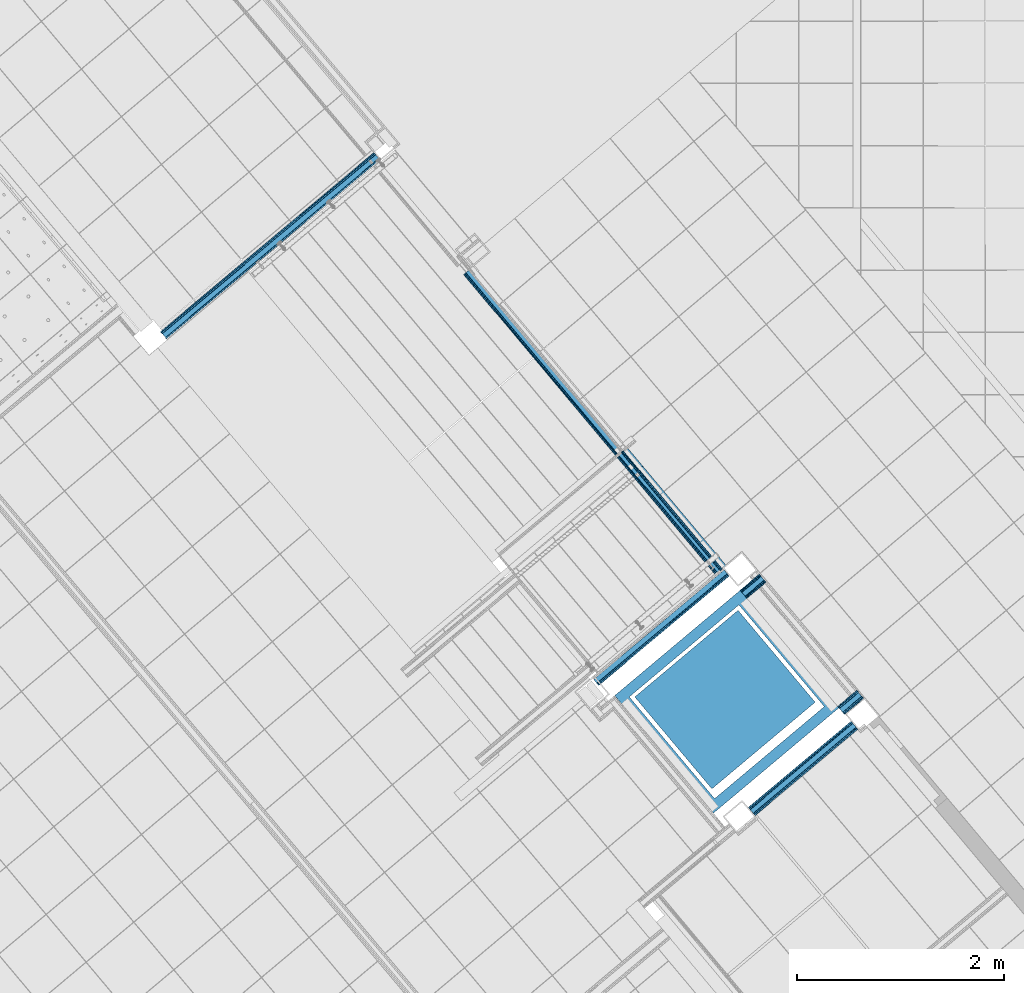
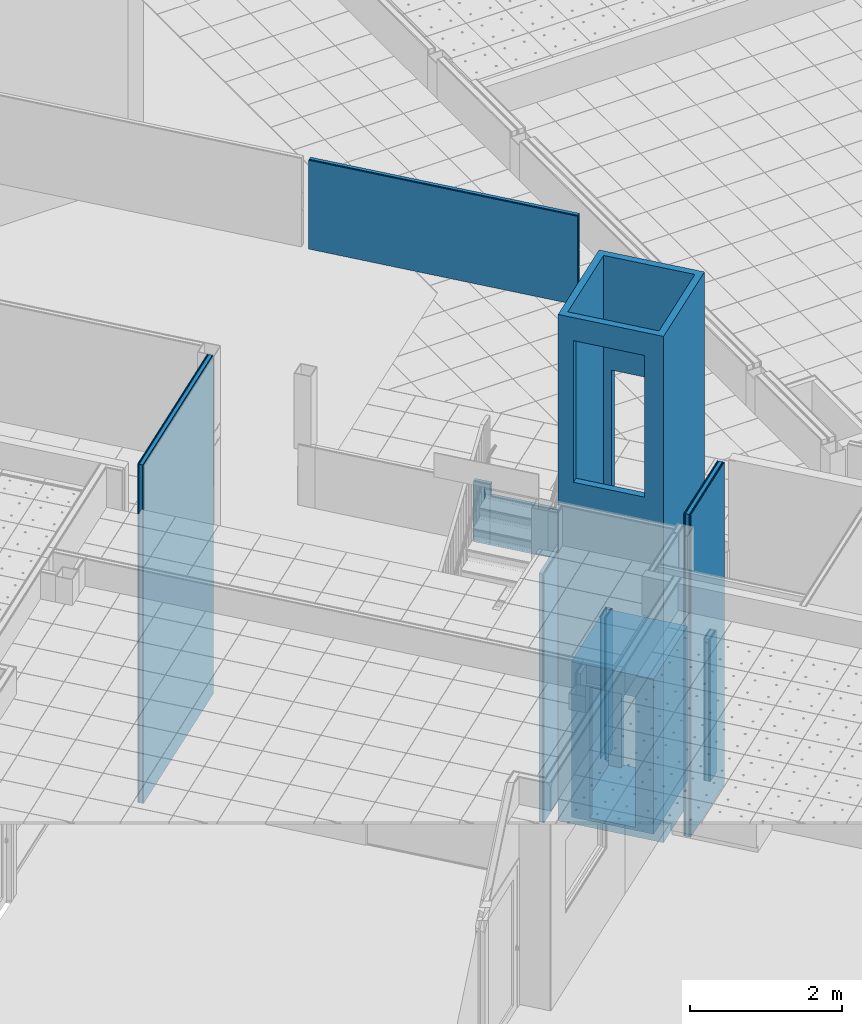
# One storey, part 70 of 338: 33 building element parts, 9 elements without a shape of their own.
"""IFC2X3 building model written with IfcOpenShell, lengths in millimetres."""

from ifc_helpers import new_model, entity, si_unit, converted_unit, derived_unit, money_unit, direction, frame, origin_with_axes, place, context, subcontext, project, spatial, faceted_brep, material, type_object, element, aggregate, save


model = new_model("IFC2X3")

# Units and contexts
model_context = context("Model", 3, precision=0.01, world=origin_with_axes(), true_north=direction((0.0, 1.0)))
plan_context = context("Plan", 3, precision=0.01, world=origin_with_axes(), true_north=direction((0.0, 1.0)))
body_context = subcontext(model_context, "Body", "Model", "MODEL_VIEW")
ifc_project = project(units=[si_unit("LENGTHUNIT", "METRE", prefix="MILLI"), si_unit("AREAUNIT", "SQUARE_METRE"), si_unit("VOLUMEUNIT", "CUBIC_METRE"), converted_unit("PLANEANGLEUNIT", "DEGREE", entity("IfcPlaneAngleMeasure", 0.0174532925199), si_unit("PLANEANGLEUNIT", "RADIAN"), dimensions=[0, 0, 0, 0, 0, 0, 0]), money_unit("EUR"), converted_unit("TIMEUNIT", "Year", entity("IfcTimeMeasure", 31556926.0), si_unit("TIMEUNIT", "SECOND"), dimensions=[0, 0, 1, 0, 0, 0, 0]), si_unit("MASSUNIT", "GRAM", prefix="KILO"), si_unit("THERMODYNAMICTEMPERATUREUNIT", "DEGREE_CELSIUS"), si_unit("LUMINOUSINTENSITYUNIT", "LUMEN"), si_unit("ENERGYUNIT", "JOULE", prefix="MEGA"), derived_unit("THERMALCONDUCTANCEUNIT", [(si_unit("POWERUNIT", "WATT"), 1), (si_unit("LENGTHUNIT", "METRE"), -1), (si_unit("THERMODYNAMICTEMPERATUREUNIT", "KELVIN"), -1)]), derived_unit("SPECIFICHEATCAPACITYUNIT", [(si_unit("ENERGYUNIT", "JOULE"), 1), (si_unit("MASSUNIT", "GRAM", prefix="KILO"), -1), (si_unit("THERMODYNAMICTEMPERATUREUNIT", "KELVIN"), -1)]), derived_unit("MASSDENSITYUNIT", [(si_unit("MASSUNIT", "GRAM", prefix="KILO"), 1), (si_unit("VOLUMEUNIT", "CUBIC_METRE"), -1)])], contexts=[model_context, plan_context])

# Site, building, storey
site_placement = place(None, origin_with_axes())
site = spatial("IfcSite", under=ifc_project, at=site_placement, Name="Fortuinstraat Woensdrecht", CompositionType="ELEMENT")
building_placement = place(site_placement, origin_with_axes())
building = spatial("IfcBuilding", under=site, at=building_placement, Name="IKC Fortuna", CompositionType="ELEMENT")
storey_placement = place(building_placement, origin_with_axes())
storey = spatial("IfcBuildingStorey", under=building, at=storey_placement, Name="00 begane grond", CompositionType="ELEMENT", Elevation=0.0)

# Wall, building element parts
wall_type_1 = type_object("IfcWallType", Name="MS75 50.2A 75", PredefinedType="NOTDEFINED")
wall_1_placement = place(storey_placement, frame((20986.2133228, 2774.8325274, 3000.0), z_axis=(0.0, 0.0, 1.0), x_axis=(0.642787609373, -0.766044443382, 0.0)))
wall_1 = element("IfcWall", 1, at=wall_1_placement, inside=storey, type_object=wall_type_1, Name="22_Wand_koof")
ifc_material_1 = material(Name="Isolatie - Steenwol LSW")
building_element_part_1_placement = place(wall_1_placement, origin_with_axes())
building_element_part_1 = element("IfcBuildingElementPart", 2, at=building_element_part_1_placement, material=ifc_material_1, Name="Isolatie - Steenwol LSW", context=body_context, shape_type="Brep", body=[
    faceted_brep([(919.648629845, 62.4827038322, 0.0), (919.64862742, 25.0, 0.0), (914.648627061, 25.0, 0.0), (914.648631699, 62.4827061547, 0.0), (319.648631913, 62.4827968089, 0.0), (319.648614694, 25.0, 0.0), (314.648627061, 25.0, 0.0), (314.648631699, 62.4827977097, 0.0), (0.0, 62.4828456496, 0.0), (0.0, 67.4828526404, 0.0), (314.648630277, 67.4828048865, 0.0), (314.648631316, 75.0, 0.0), (319.648629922, 75.0, 0.0), (319.648628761, 67.4828035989, 0.0), (914.648622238, 67.4827036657, 0.0), (914.648623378, 75.0, 0.0), (919.648624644, 75.0, 0.0), (919.648623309, 67.4827099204, 0.0), (1241.96718072, 67.4826598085, 0.0), (1241.9671822, 75.0, 0.0), (1244.46713999, 75.0, 0.0), (1244.46714, 32.5000009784, 0.0), (1249.99999032, 32.5000009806, 0.0), (1249.99999032, 25.0, 0.0), (1241.96717578, 25.0, 0.0), (1241.9671829, 62.4826549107, 0.0), (919.648629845, 62.4827038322, 20.0), (919.64862742, 25.0, 20.0), (1241.96717578, 25.0, 20.0), (1249.99999032, 25.0000010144, 633.0), (0.0, 25.0000005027, 633.0), (0.0, 25.0000000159, 20.0), (314.648627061, 25.0, 20.0), (319.648614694, 25.0, 20.0), (914.648627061, 25.0, 20.0), (914.648631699, 62.4827061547, 20.0), (319.648631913, 62.4827968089, 20.0), (314.648631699, 62.4827977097, 20.0), (0.0, 62.4828456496, 20.0), (0.0, 75.0, 633.0), (0.0, 75.0, 20.0), (0.0, 67.4828526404, 20.0), (314.648630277, 67.4828048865, 20.0), (314.648631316, 75.0, 20.0), (919.648624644, 75.0, 20.0), (914.648623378, 75.0, 20.0), (319.648629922, 75.0, 20.0), (1244.46713999, 75.0, 633.0), (1241.9671822, 75.0, 20.0), (319.648628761, 67.4828035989, 20.0), (914.648622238, 67.4827036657, 20.0), (919.648623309, 67.4827099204, 20.0), (1241.96718072, 67.4826598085, 20.0), (1244.46714, 32.5000009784, 633.0), (1249.99999032, 32.5000009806, 633.0), (1241.9671829, 62.4826549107, 20.0)], [[[0, 1, 2, 3, 4, 5, 6, 7, 8, 9, 10, 11, 12, 13, 14, 15, 16, 17, 18, 19, 20, 21, 22, 23, 24, 25]], [[1, 0, 26, 27]], [[28, 24, 23, 29, 30, 31, 32, 6, 5, 33, 34, 2, 1, 27]], [[3, 2, 34, 35]], [[4, 3, 35, 36]], [[5, 4, 36, 33]], [[7, 6, 32, 37]], [[8, 7, 37, 38]], [[38, 31, 30, 39, 40, 41, 9, 8]], [[10, 9, 41, 42]], [[43, 11, 10, 42]], [[44, 16, 15, 45, 46, 12, 11, 43, 40, 39, 47, 20, 19, 48]], [[12, 46, 49, 13]], [[14, 13, 49, 50]], [[45, 15, 14, 50]], [[16, 44, 51, 17]], [[18, 17, 51, 52]], [[48, 19, 18, 52]], [[21, 20, 47, 53]], [[21, 53, 54, 22]], [[23, 22, 54, 29]], [[25, 24, 28, 55]], [[0, 25, 55, 26]], [[28, 27, 26, 55]], [[29, 54, 53, 47, 39, 30]], [[32, 31, 38, 37]], [[34, 33, 36, 35]], [[40, 43, 42, 41]], [[46, 45, 50, 49]], [[44, 48, 52, 51]]]),
    faceted_brep([(1249.99999032, 25.0000010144, 650.0), (1249.99999032, 75.0, 650.0), (1249.99999032, 75.0, 778.004048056), (1249.99999032, 25.0, 778.004048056), (0.0, 75.0, 650.0), (0.0, 25.0000005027, 650.0), (0.0, 75.0, 778.004048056), (0.0, 25.0, 778.004048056)], [[[0, 1, 2, 3]], [[4, 1, 0, 5]], [[1, 4, 6, 2]], [[7, 3, 2, 6]], [[5, 0, 3, 7]], [[4, 5, 7, 6]]]),
])
ifc_material_2 = material(Name="Gipsplaat")
building_element_part_2_placement = place(wall_1_placement, origin_with_axes())
building_element_part_2 = element("IfcBuildingElementPart", 3, at=building_element_part_2_placement, material=ifc_material_2, Name="Gipsplaat", context=body_context, shape_type="Brep", body=[
    faceted_brep([(919.64862742, 25.0, 20.0), (919.64862742, 25.0, 0.0), (914.648627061, 25.0, 0.0), (914.648627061, 25.0, 20.0), (319.648614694, 25.0, 20.0), (319.648614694, 25.0, 0.0), (314.648627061, 25.0, 0.0), (314.648627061, 25.0, 20.0), (0.0, 25.0, 20.0), (0.0, 25.0, 778.004048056), (1249.99999032, 25.0, 778.004048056), (1249.99999032, 25.0, 0.0), (1241.96717578, 25.0, 0.0), (1241.96717578, 25.0, 20.0), (919.648626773, 14.9995692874, 20.0), (919.648626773, 14.9995692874, 0.0), (1241.96717389, 14.9995198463, 0.0), (1249.99999032, 12.5, 0.0), (0.0, 12.5, 0.0), (0.0, 14.9997076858, 0.0), (314.648625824, 14.9996577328, 0.0), (319.6486101, 14.9996606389, 0.0), (914.648625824, 14.9995661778, 0.0), (914.648625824, 14.9995661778, 20.0), (319.6486101, 14.9996606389, 20.0), (314.648625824, 14.9996577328, 20.0), (0.0, 14.9997076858, 20.0), (0.0, 12.5, 778.004048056), (1249.99999032, 12.5, 778.004048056), (1241.96717389, 14.9995198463, 20.0)], [[[0, 1, 2, 3, 4, 5, 6, 7, 8, 9, 10, 11, 12, 13]], [[1, 0, 14, 15]], [[16, 12, 11, 17, 18, 19, 20, 6, 5, 21, 22, 2, 1, 15]], [[3, 2, 22, 23]], [[4, 3, 23, 24]], [[5, 4, 24, 21]], [[7, 6, 20, 25]], [[8, 7, 25, 26]], [[26, 19, 18, 27, 9, 8]], [[9, 27, 28, 10]], [[28, 17, 11, 10]], [[13, 12, 16, 29]], [[0, 13, 29, 14]], [[16, 15, 14, 29]], [[27, 18, 17, 28]], [[20, 19, 26, 25]], [[22, 21, 24, 23]]]),
])
building_element_part_3_placement = place(wall_1_placement, origin_with_axes())
building_element_part_3 = element("IfcBuildingElementPart", 4, at=building_element_part_3_placement, material=ifc_material_2, Name="Gipsplaat", context=body_context, shape_type="Brep", body=[
    faceted_brep([(0.0, 0.0, 0.0), (0.0, 12.5, 0.0), (1249.99999032, 12.5, 0.0), (1249.99999032, 0.0, 0.0), (0.0, 0.0, 778.004048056), (0.0, 12.5, 778.004048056), (1249.99999032, 12.5, 778.004048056), (1249.99999032, 0.0, 778.004048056)], [[[0, 1, 2, 3]], [[4, 5, 1, 0]], [[1, 5, 6, 2]], [[7, 3, 2, 6]], [[4, 0, 3, 7]], [[5, 4, 7, 6]]]),
])
aggregate(wall_1, [building_element_part_1, building_element_part_2, building_element_part_3])

wall_type_2 = type_object("IfcWallType", Name="MS100 2.50.2A 100", PredefinedType="NOTDEFINED")
wall_2_placement = place(storey_placement, frame((22125.1867952, -544.616658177, -90.0), z_axis=(0.0, 0.0, 1.0), x_axis=(0.766044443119, 0.642787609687, 0.0)))
wall_2 = element("IfcWall", 5, at=wall_2_placement, inside=storey, type_object=wall_type_2, Name="22_Wand_Binnenwand")
building_element_part_4_placement = place(wall_2_placement, origin_with_axes())
building_element_part_4 = element("IfcBuildingElementPart", 6, at=building_element_part_4_placement, material=ifc_material_2, Name="Gipsplaat", context=body_context, shape_type="Brep", body=[
    faceted_brep([(1293.69652993, 87.5, 5190.0), (1293.69652993, 100.0, 5190.0), (0.0, 100.0, 5190.0), (0.0, 87.5, 5190.0), (1293.69652993, 87.5, 0.0), (1293.69652993, 100.0, 0.0), (0.0, 100.0, 0.0), (0.0, 87.5, 0.0)], [[[0, 1, 2, 3]], [[0, 4, 5, 1]], [[1, 5, 6, 2]], [[3, 2, 6, 7]], [[4, 0, 3, 7]], [[5, 4, 7, 6]]]),
])
building_element_part_5_placement = place(wall_2_placement, origin_with_axes())
building_element_part_5 = element("IfcBuildingElementPart", 7, at=building_element_part_5_placement, material=ifc_material_2, Name="Gipsplaat", context=body_context, shape_type="Brep", body=[
    faceted_brep([(1293.69652993, 75.0, 5190.0), (1293.69652993, 87.5, 5190.0), (0.0, 87.5, 5190.0), (0.0, 75.0, 5190.0), (1293.69652993, 75.0, 0.0), (1293.69652993, 87.5, 0.0), (0.0, 87.5, 0.0), (0.0, 75.0, 0.0)], [[[0, 1, 2, 3]], [[0, 4, 5, 1]], [[1, 5, 6, 2]], [[3, 2, 6, 7]], [[4, 0, 3, 7]], [[5, 4, 7, 6]]]),
])
building_element_part_6_placement = place(wall_2_placement, origin_with_axes())
building_element_part_6 = element("IfcBuildingElementPart", 8, at=building_element_part_6_placement, material=ifc_material_1, Name="Isolatie - Steenwol LSW", context=body_context, shape_type="Brep", body=[
    faceted_brep([(1293.69652993, 25.0, 5190.0), (1293.69652993, 75.0, 5190.0), (0.0, 75.0, 5190.0), (0.0, 25.0, 5190.0), (1293.69652993, 25.0, 0.0), (1293.69652993, 75.0, 0.0), (0.0, 75.0, 0.0), (0.0, 25.0, 0.0)], [[[0, 1, 2, 3]], [[0, 4, 5, 1]], [[1, 5, 6, 2]], [[3, 2, 6, 7]], [[4, 0, 3, 7]], [[5, 4, 7, 6]]]),
])
building_element_part_7_placement = place(wall_2_placement, origin_with_axes())
building_element_part_7 = element("IfcBuildingElementPart", 9, at=building_element_part_7_placement, material=ifc_material_2, Name="Gipsplaat", context=body_context, shape_type="Brep", body=[
    faceted_brep([(1293.69652993, 12.5, 5190.0), (1293.69652993, 25.0, 5190.0), (0.0, 25.0, 5190.0), (0.0, 12.5, 5190.0), (1293.69652993, 12.5, 0.0), (1293.69652993, 25.0, 0.0), (0.0, 25.0, 0.0), (0.0, 12.5, 0.0)], [[[0, 1, 2, 3]], [[0, 4, 5, 1]], [[1, 5, 6, 2]], [[3, 2, 6, 7]], [[4, 0, 3, 7]], [[5, 4, 7, 6]]]),
])
building_element_part_8_placement = place(wall_2_placement, origin_with_axes())
building_element_part_8 = element("IfcBuildingElementPart", 10, at=building_element_part_8_placement, material=ifc_material_2, Name="Gipsplaat", context=body_context, shape_type="Brep", body=[
    faceted_brep([(1293.69652993, 0.0, 5190.0), (1293.69652993, 12.5, 5190.0), (0.0, 12.5, 5190.0), (0.0, 0.0, 5190.0), (1293.69652993, 0.0, 0.0), (1293.69652993, 12.5, 0.0), (0.0, 12.5, 0.0), (0.0, 0.0, 0.0)], [[[0, 1, 2, 3]], [[0, 4, 5, 1]], [[1, 5, 6, 2]], [[3, 2, 6, 7]], [[4, 0, 3, 7]], [[5, 4, 7, 6]]]),
])
aggregate(wall_2, [building_element_part_4, building_element_part_5, building_element_part_6, building_element_part_7, building_element_part_8])

wall_3_placement = place(storey_placement, frame((16458.2534376, 4043.70975416, -350.0), z_axis=(0.0, 0.0, 1.0), x_axis=(0.766044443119, 0.642787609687, 0.0)))
wall_3 = element("IfcWall", 11, at=wall_3_placement, inside=storey, type_object=wall_type_2, Name="22_Wand_Binnenwand")
building_element_part_9_placement = place(wall_3_placement, origin_with_axes())
building_element_part_9 = element("IfcBuildingElementPart", 12, at=building_element_part_9_placement, material=ifc_material_2, Name="Gipsplaat", context=body_context, shape_type="Brep", body=[
    faceted_brep([(2685.49994966, 87.5, 5450.0), (2685.49994966, 100.0, 5450.0), (0.0, 100.0, 5450.0), (0.0, 87.5, 5450.0), (2685.49994966, 87.5, 0.0), (2685.49994966, 100.0, 0.0), (0.0, 100.0, 0.0), (0.0, 87.5, 0.0)], [[[0, 1, 2, 3]], [[0, 4, 5, 1]], [[1, 5, 6, 2]], [[3, 2, 6, 7]], [[4, 0, 3, 7]], [[5, 4, 7, 6]]]),
])
building_element_part_10_placement = place(wall_3_placement, origin_with_axes())
building_element_part_10 = element("IfcBuildingElementPart", 13, at=building_element_part_10_placement, material=ifc_material_2, Name="Gipsplaat", context=body_context, shape_type="Brep", body=[
    faceted_brep([(2685.49994966, 75.0, 5450.0), (2685.49994966, 87.5, 5450.0), (0.0, 87.5, 5450.0), (0.0, 75.0, 5450.0), (2685.49994966, 75.0, 0.0), (2685.49994966, 87.5, 0.0), (0.0, 87.5, 0.0), (0.0, 75.0, 0.0)], [[[0, 1, 2, 3]], [[0, 4, 5, 1]], [[1, 5, 6, 2]], [[3, 2, 6, 7]], [[4, 0, 3, 7]], [[5, 4, 7, 6]]]),
])
building_element_part_11_placement = place(wall_3_placement, origin_with_axes())
building_element_part_11 = element("IfcBuildingElementPart", 14, at=building_element_part_11_placement, material=ifc_material_1, Name="Isolatie - Steenwol LSW", context=body_context, shape_type="Brep", body=[
    faceted_brep([(0.0, 25.0, 5450.0), (2685.49994966, 25.0, 5450.0), (2685.49994966, 75.0, 5450.0), (0.0, 75.0, 5450.0), (0.0, 25.0, 0.0), (2685.49994966, 25.0, 0.0), (2685.49994966, 75.0, 0.0), (0.0, 75.0, 0.0)], [[[0, 1, 2, 3]], [[4, 5, 1, 0]], [[2, 1, 5, 6]], [[3, 2, 6, 7]], [[4, 0, 3, 7]], [[7, 6, 5, 4]]]),
])
building_element_part_12_placement = place(wall_3_placement, origin_with_axes())
building_element_part_12 = element("IfcBuildingElementPart", 15, at=building_element_part_12_placement, material=ifc_material_2, Name="Gipsplaat", context=body_context, shape_type="Brep", body=[
    faceted_brep([(0.0, 12.5, 5450.0), (2685.49994966, 12.5, 5450.0), (2685.49994966, 25.0, 5450.0), (0.0, 25.0, 5450.0), (0.0, 12.5, 0.0), (2685.49994966, 12.5, 0.0), (2685.49994966, 25.0, 0.0), (0.0, 25.0, 0.0)], [[[0, 1, 2, 3]], [[4, 5, 1, 0]], [[2, 1, 5, 6]], [[3, 2, 6, 7]], [[4, 0, 3, 7]], [[7, 6, 5, 4]]]),
])
aggregate(wall_3, [building_element_part_9, building_element_part_10, building_element_part_11, building_element_part_12])

# Transport element, building element parts
transport_element_type = type_object("IfcTransportElementType", Name="Lift 25", PredefinedType="ELEVATOR")
transport_element_placement = place(storey_placement, frame((22933.7060941, 492.794014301, 0.0), z_axis=(0.0, 0.0, 1.0), x_axis=(-0.642787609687, 0.766044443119, 0.0)))
transport_element = element("IfcTransportElement", 16, at=transport_element_placement, inside=storey, type_object=transport_element_type, Name="66_Lift_Lift", ObjectType="ELEVATOR")
building_element_part_13_placement = place(transport_element_placement, origin_with_axes())
building_element_part_13 = element("IfcBuildingElementPart", 17, at=building_element_part_13_placement, context=body_context, shape_type="Brep", body=[
    faceted_brep([(1086.16666667, 220.0, 0.0), (1265.66666667, 220.0, 0.0), (1265.66666667, 1360.0, 0.0), (1086.16666667, 1360.0, 0.0), (1086.16666667, 1440.0, 0.0), (1345.66666667, 1440.0, 0.0), (1345.66666667, 140.0, 0.0), (1086.16666667, 140.0, 0.0), (268.666666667, 220.0, 2400.0), (1265.66666667, 220.0, 2400.0), (1086.16666667, 220.0, 2100.0), (448.166666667, 220.0, 2100.0), (448.166666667, 220.0, 0.0), (268.666666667, 220.0, 0.0), (1265.66666667, 1360.0, 2400.0), (268.666666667, 1360.0, 2400.0), (268.666666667, 1360.0, 0.0), (448.166666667, 1360.0, 0.0), (448.166666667, 1360.0, 2100.0), (1086.16666667, 1360.0, 2100.0), (1086.16666667, 1440.0, 2100.0), (448.166666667, 1440.0, 2100.0), (448.166666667, 1440.0, 0.0), (188.666666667, 1440.0, 0.0), (188.666666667, 1440.0, 2400.0), (1345.66666667, 1440.0, 2400.0), (1345.66666667, 140.0, 2400.0), (188.666666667, 140.0, 2400.0), (188.666666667, 140.0, 0.0), (448.166666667, 140.0, 0.0), (448.166666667, 140.0, 2100.0), (1086.16666667, 140.0, 2100.0)], [[[0, 1, 2, 3, 4, 5, 6, 7]], [[8, 9, 1, 0, 10, 11, 12, 13]], [[9, 14, 2, 1]], [[14, 15, 16, 17, 18, 19, 3, 2]], [[3, 19, 20, 4]], [[5, 4, 20, 21, 22, 23, 24, 25]], [[26, 6, 5, 25]], [[6, 26, 27, 28, 29, 30, 31, 7]], [[10, 0, 7, 31]], [[24, 27, 26, 25], [8, 15, 14, 9]], [[11, 10, 31, 30]], [[12, 11, 30, 29]], [[13, 12, 29, 28, 23, 22, 17, 16]], [[15, 8, 13, 16]], [[18, 17, 22, 21]], [[19, 18, 21, 20]], [[24, 23, 28, 27]]]),
    faceted_brep([(188.666666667, 140.0, -50.0), (1345.66666667, 140.0, -50.0), (1345.66666667, 140.0, 0.0), (188.666666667, 140.0, 0.0), (188.666666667, 1440.0, -50.0), (1345.66666667, 1440.0, -50.0), (1345.66666667, 1440.0, 0.0), (188.666666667, 1440.0, 0.0)], [[[0, 1, 2, 3]], [[0, 4, 5, 1]], [[1, 5, 6, 2]], [[3, 2, 6, 7]], [[4, 0, 3, 7]], [[5, 4, 7, 6]]]),
    faceted_brep([(188.666666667, 140.0, 2400.0), (1345.66666667, 140.0, 2400.0), (1345.66666667, 140.0, 2450.0), (188.666666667, 140.0, 2450.0), (188.666666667, 1440.0, 2400.0), (1345.66666667, 1440.0, 2400.0), (1345.66666667, 1440.0, 2450.0), (188.666666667, 1440.0, 2450.0)], [[[0, 1, 2, 3]], [[0, 4, 5, 1]], [[1, 5, 6, 2]], [[3, 2, 6, 7]], [[4, 0, 3, 7]], [[5, 4, 7, 6]]]),
])
ifc_material_3 = material(Name="Glas")
building_element_part_14_placement = place(transport_element_placement, origin_with_axes())
building_element_part_14 = element("IfcBuildingElementPart", 18, at=building_element_part_14_placement, material=ifc_material_3, Name="Glas", context=body_context, shape_type="Brep", body=[
    faceted_brep([(1266.16666667, 1480.0, 5450.0), (1266.16666667, 1480.0, 7730.0), (1266.16666667, 1580.0, 7730.0), (1266.16666667, 1580.0, 5450.0), (1380.0, 1480.0, 8100.0), (100.0, 1480.0, 8100.0), (100.0, 1480.0, 4000.0), (1380.0, 1480.0, 4000.0), (268.166666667, 1480.0, 7730.0), (268.166666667, 1480.0, 5450.0), (268.166666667, 1580.0, 7730.0), (1480.0, 1580.0, 8100.0), (1480.0, 1580.0, 4000.0), (0.0, 1580.0, 4000.0), (0.0, 1580.0, 8100.0), (268.166666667, 1580.0, 5450.0), (0.0, 0.0, 8100.0), (1480.0, 0.0, 8100.0), (100.0, 100.0, 8100.0), (1380.0, 100.0, 8100.0), (100.0, 100.0, 4000.0), (1266.16666667, 100.0, 4000.0), (1380.0, 100.0, 4000.0), (268.166666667, 100.0, 4000.0), (268.166666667, 0.0, 4000.0), (0.0, 0.0, 4000.0), (1480.0, 0.0, 4000.0), (1266.16666667, 0.0, 4000.0), (268.166666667, 0.0, 6280.0), (1266.16666667, 0.0, 6280.0), (1266.16666667, 100.0, 6280.0), (268.166666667, 100.0, 6280.0)], [[[0, 1, 2, 3]], [[4, 5, 6, 7], [8, 1, 0, 9]], [[1, 8, 10, 2]], [[11, 12, 13, 14], [3, 2, 10, 15]], [[9, 0, 3, 15]], [[14, 16, 17, 11], [18, 5, 4, 19]], [[5, 18, 20, 6]], [[21, 22, 7, 6, 20, 23, 24, 25, 13, 12, 26, 27]], [[19, 4, 7, 22]], [[8, 9, 15, 10]], [[17, 26, 12, 11]], [[14, 13, 25, 16]], [[26, 17, 16, 25, 24, 28, 29, 27]], [[18, 19, 22, 21, 30, 31, 23, 20]], [[23, 31, 28, 24]], [[30, 21, 27, 29]], [[31, 30, 29, 28]]]),
    faceted_brep([(1266.16666667, 100.0, 0.0), (1380.0, 100.0, 0.0), (1380.0, 1480.0, 0.0), (100.0, 1480.0, 0.0), (100.0, 100.0, 0.0), (268.166666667, 100.0, 0.0), (268.166666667, 0.0, 0.0), (0.0, 0.0, 0.0), (0.0, 1580.0, 0.0), (1480.0, 1580.0, 0.0), (1480.0, 0.0, 0.0), (1266.16666667, 0.0, 0.0), (100.0, 100.0, 4000.0), (1380.0, 100.0, 4000.0), (1266.16666667, 100.0, 2280.0), (268.166666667, 100.0, 2280.0), (1380.0, 1480.0, 4000.0), (100.0, 1480.0, 4000.0), (268.166666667, 0.0, 2280.0), (1266.16666667, 0.0, 2280.0), (1480.0, 0.0, 4000.0), (0.0, 0.0, 4000.0), (0.0, 1580.0, 4000.0), (1480.0, 1580.0, 4000.0)], [[[0, 1, 2, 3, 4, 5, 6, 7, 8, 9, 10, 11]], [[12, 13, 1, 0, 14, 15, 5, 4]], [[13, 16, 2, 1]], [[16, 17, 3, 2]], [[17, 12, 4, 3]], [[5, 15, 18, 6]], [[7, 6, 18, 19, 11, 10, 20, 21]], [[21, 22, 8, 7]], [[22, 23, 9, 8]], [[23, 20, 10, 9]], [[14, 0, 11, 19]], [[23, 22, 21, 20], [12, 17, 16, 13]], [[15, 14, 19, 18]]]),
    faceted_brep([(0.0, 1580.0, -50.0), (1480.0, 1580.0, -50.0), (1480.0, 0.0, -50.0), (0.0, 0.0, -50.0), (100.0, 100.0, -50.0), (1380.0, 100.0, -50.0), (1380.0, 1480.0, -50.0), (100.0, 1480.0, -50.0), (0.0, 1580.0, 0.0), (1480.0, 1580.0, 0.0), (1480.0, 0.0, 0.0), (0.0, 0.0, 0.0), (100.0, 100.0, 0.0), (1380.0, 100.0, 0.0), (1380.0, 1480.0, 0.0), (100.0, 1480.0, 0.0)], [[[0, 1, 2, 3], [4, 5, 6, 7]], [[0, 8, 9, 1]], [[1, 9, 10, 2]], [[2, 10, 11, 3]], [[3, 11, 8, 0]], [[12, 13, 5, 4]], [[13, 14, 6, 5]], [[14, 15, 7, 6]], [[15, 12, 4, 7]], [[10, 9, 8, 11], [12, 15, 14, 13]]]),
])
aggregate(transport_element, [building_element_part_13, building_element_part_14])

# Wall, building element parts
wall_4_placement = place(storey_placement, frame((19317.3076065, 4670.41348346, 7200.0), z_axis=(0.0, 0.0, 1.0), x_axis=(0.642787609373, -0.766044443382, 0.0)))
wall_4 = element("IfcWall", 19, at=wall_4_placement, inside=storey, type_object=wall_type_1, Name="22_Wand_koof")
building_element_part_15_placement = place(wall_4_placement, origin_with_axes())
building_element_part_15 = element("IfcBuildingElementPart", 20, at=building_element_part_15_placement, material=ifc_material_1, Name="Isolatie - Steenwol LSW", context=body_context, shape_type="Brep", body=[
    faceted_brep([(-2.04494199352e-08, 75.0, 565.0), (3774.85117411, 75.0, 565.0), (3774.85117411, 75.0, 0.0), (-2.04494199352e-08, 75.0, 0.0), (3774.85117411, 25.0000003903, 565.0), (0.0, 24.9999988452, 565.0), (3774.85117411, 25.0, 0.0), (0.0, 25.0, 0.0)], [[[0, 1, 2, 3]], [[4, 1, 0, 5]], [[1, 4, 6, 2]], [[3, 2, 6, 7]], [[5, 0, 3, 7]], [[4, 5, 7, 6]]]),
    faceted_brep([(3774.85117411, 75.0, 841.0), (3774.85117411, 25.0000003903, 841.0), (3774.85117411, 25.0000003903, 579.0), (3774.85117411, 75.0, 579.0), (-2.04494199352e-08, 75.0, 841.0), (0.0, 24.9999988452, 841.0), (0.0, 24.9999988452, 579.0), (-2.04494199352e-08, 75.0, 579.0)], [[[0, 1, 2, 3]], [[1, 0, 4, 5]], [[1, 5, 6, 2]], [[7, 3, 2, 6]], [[4, 0, 3, 7]], [[5, 4, 7, 6]]]),
    faceted_brep([(3774.85117411, 25.0000003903, 855.0), (3774.85117411, 75.0, 855.0), (3774.85117411, 75.0, 1430.02107509), (3774.85117411, 25.0, 1430.02107509), (-2.04494199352e-08, 75.0, 855.0), (0.0, 24.9999988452, 855.0), (-2.04494199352e-08, 75.0, 1430.02107509), (0.0, 25.0, 1430.02107509)], [[[0, 1, 2, 3]], [[4, 1, 0, 5]], [[1, 4, 6, 2]], [[7, 3, 2, 6]], [[5, 0, 3, 7]], [[4, 5, 7, 6]]]),
])
building_element_part_16_placement = place(wall_4_placement, origin_with_axes())
building_element_part_16 = element("IfcBuildingElementPart", 21, at=building_element_part_16_placement, material=ifc_material_2, Name="Gipsplaat", context=body_context, shape_type="Brep", body=[
    faceted_brep([(0.0, 25.0, 0.0), (3774.85117411, 25.0, 0.0), (3774.85117411, 12.5, 0.0), (5.11413134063e-09, 12.5, 0.0), (0.0, 25.0, 1430.02107509), (3774.85117411, 25.0, 1430.02107509), (3774.85117411, 12.5, 1430.02107509), (5.11413134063e-09, 12.5, 1430.02107509)], [[[0, 1, 2, 3]], [[4, 5, 1, 0]], [[2, 1, 5, 6]], [[3, 2, 6, 7]], [[4, 0, 3, 7]], [[7, 6, 5, 4]]]),
])
building_element_part_17_placement = place(wall_4_placement, origin_with_axes())
building_element_part_17 = element("IfcBuildingElementPart", 22, at=building_element_part_17_placement, material=ifc_material_2, Name="Gipsplaat", context=body_context, shape_type="Brep", body=[
    faceted_brep([(5.11590769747e-09, 12.5, 0.0), (3774.85117411, 12.5, 0.0), (3774.85117411, 0.0, 0.0), (1.02264863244e-08, 0.0, 0.0), (5.11590769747e-09, 12.5, 1430.02107509), (3774.85117411, 12.5, 1430.02107509), (3774.85117411, 0.0, 1430.02107509), (1.02264863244e-08, 0.0, 1430.02107509)], [[[0, 1, 2, 3]], [[4, 5, 1, 0]], [[2, 1, 5, 6]], [[3, 2, 6, 7]], [[4, 0, 3, 7]], [[7, 6, 5, 4]]]),
])
aggregate(wall_4, [building_element_part_15, building_element_part_16, building_element_part_17])

wall_5_placement = place(storey_placement, frame((21811.0378259, 1842.40598777, -90.0), z_axis=(0.0, 0.0, 1.0), x_axis=(-0.766044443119, -0.642787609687, 0.0)))
wall_5 = element("IfcWall", 23, at=wall_5_placement, inside=storey, type_object=wall_type_2, Name="22_Wand_Binnenwand")
building_element_part_18_placement = place(wall_5_placement, origin_with_axes())
building_element_part_18 = element("IfcBuildingElementPart", 24, at=building_element_part_18_placement, material=ifc_material_2, Name="Gipsplaat", context=body_context, shape_type="Brep", body=[
    faceted_brep([(1642.49258877, 87.5, 4000.0), (1642.49258877, 100.0, 4000.0), (0.0, 100.0, 4000.0), (0.0, 87.5, 4000.0), (1642.49258877, 87.5, 0.0), (1642.49258877, 100.0, 0.0), (0.0, 100.0, 0.0), (0.0, 87.5, 0.0)], [[[0, 1, 2, 3]], [[0, 4, 5, 1]], [[1, 5, 6, 2]], [[3, 2, 6, 7]], [[4, 0, 3, 7]], [[5, 4, 7, 6]]]),
])
building_element_part_19_placement = place(wall_5_placement, origin_with_axes())
building_element_part_19 = element("IfcBuildingElementPart", 25, at=building_element_part_19_placement, material=ifc_material_2, Name="Gipsplaat", context=body_context, shape_type="Brep", body=[
    faceted_brep([(1642.49258877, 75.0, 4000.0), (1642.49258877, 87.5, 4000.0), (0.0, 87.5, 4000.0), (0.0, 75.0, 4000.0), (1642.49258877, 75.0, 0.0), (1642.49258877, 87.5, 0.0), (0.0, 87.5, 0.0), (0.0, 75.0, 0.0)], [[[0, 1, 2, 3]], [[0, 4, 5, 1]], [[1, 5, 6, 2]], [[3, 2, 6, 7]], [[4, 0, 3, 7]], [[5, 4, 7, 6]]]),
])
building_element_part_20_placement = place(wall_5_placement, origin_with_axes())
building_element_part_20 = element("IfcBuildingElementPart", 26, at=building_element_part_20_placement, material=ifc_material_1, Name="Isolatie - Steenwol LSW", context=body_context, shape_type="Brep", body=[
    faceted_brep([(1642.49258877, 25.0, 4000.0), (1642.49258877, 75.0, 4000.0), (0.0, 75.0, 4000.0), (0.0, 25.0, 4000.0), (1642.49258877, 25.0, 0.0), (1642.49258877, 75.0, 0.0), (0.0, 75.0, 0.0), (0.0, 25.0, 0.0)], [[[0, 1, 2, 3]], [[0, 4, 5, 1]], [[1, 5, 6, 2]], [[3, 2, 6, 7]], [[4, 0, 3, 7]], [[5, 4, 7, 6]]]),
])
aggregate(wall_5, [building_element_part_18, building_element_part_19, building_element_part_20])

wall_6_placement = place(storey_placement, frame((20833.9680771, 2956.2713461, 3000.0), z_axis=(0.0, 0.0, 1.0), x_axis=(0.642787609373, -0.766044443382, 0.0)))
wall_6 = element("IfcWall", 27, at=wall_6_placement, inside=storey, type_object=wall_type_1, Name="22_Wand_koof")
building_element_part_21_placement = place(wall_6_placement, origin_with_axes())
building_element_part_21 = element("IfcBuildingElementPart", 28, at=building_element_part_21_placement, material=ifc_material_1, Name="Isolatie - Steenwol LSW", context=body_context, shape_type="Brep", body=[
    faceted_brep([(236.85155641, 62.4828456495, 20.0), (236.85155641, 62.4828456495, 0.0), (236.85155641, 67.4828526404, 0.0), (236.85155641, 67.4828526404, 20.0), (236.85155641, 75.0, 20.0), (236.85155641, 75.0, 633.0), (236.85155641, 25.0000005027, 633.0), (236.85155641, 25.0000000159, 20.0), (0.0, 62.4828817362, 20.0), (0.0, 62.4828817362, 0.0), (0.0, 67.4828885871, 0.0), (0.0, 67.4828885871, 20.0), (0.0, 75.0, 20.0), (0.0, 75.0, 633.0), (0.0, 25.0000004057, 633.0), (0.0, 25.0000000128, 20.0)], [[[0, 1, 2, 3, 4, 5, 6, 7]], [[1, 0, 8, 9]], [[1, 9, 10, 2]], [[3, 2, 10, 11]], [[12, 4, 3, 11]], [[4, 12, 13, 5]], [[14, 6, 5, 13]], [[15, 7, 6, 14]], [[0, 7, 15, 8]], [[8, 15, 14, 13, 12, 11, 10, 9]]]),
    faceted_brep([(236.85155641, 75.0, 856.0), (236.85155641, 25.0000005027, 856.0), (236.85155641, 25.0000005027, 650.0), (236.85155641, 75.0, 650.0), (0.0, 75.0, 856.0), (0.0, 25.0000004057, 856.0), (0.0, 25.0000004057, 650.0), (0.0, 75.0, 650.0)], [[[0, 1, 2, 3]], [[1, 0, 4, 5]], [[1, 5, 6, 2]], [[7, 3, 2, 6]], [[4, 0, 3, 7]], [[5, 4, 7, 6]]]),
    faceted_brep([(236.85155641, 25.0000005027, 873.0), (236.85155641, 75.0, 873.0), (236.85155641, 75.0, 970.0), (236.85155641, 25.0, 970.0), (0.0, 75.0, 873.0), (0.0, 25.0000004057, 873.0), (0.0, 75.0, 970.0), (0.0, 25.0, 970.0)], [[[0, 1, 2, 3]], [[4, 1, 0, 5]], [[1, 4, 6, 2]], [[7, 3, 2, 6]], [[5, 0, 3, 7]], [[4, 5, 7, 6]]]),
])
building_element_part_22_placement = place(wall_6_placement, origin_with_axes())
building_element_part_22 = element("IfcBuildingElementPart", 29, at=building_element_part_22_placement, material=ifc_material_2, Name="Gipsplaat", context=body_context, shape_type="Brep", body=[
    faceted_brep([(236.85155641, 14.9997076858, 0.0), (236.85155641, 14.9997076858, 20.0), (236.85155641, 25.0, 20.0), (236.85155641, 25.0, 970.0), (236.85155641, 12.5, 970.0), (236.85155641, 12.5, 0.0), (0.0, 14.9997452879, 0.0), (0.0, 14.9997452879, 20.0), (0.0, 25.0, 20.0), (0.0, 25.0, 970.0), (0.0, 12.5, 970.0), (0.0, 12.5, 0.0)], [[[0, 1, 2, 3, 4, 5]], [[1, 0, 6, 7]], [[8, 2, 1, 7]], [[2, 8, 9, 3]], [[9, 10, 4, 3]], [[10, 11, 5, 4]], [[6, 0, 5, 11]], [[7, 6, 11, 10, 9, 8]]]),
])
building_element_part_23_placement = place(wall_6_placement, origin_with_axes())
building_element_part_23 = element("IfcBuildingElementPart", 30, at=building_element_part_23_placement, material=ifc_material_2, Name="Gipsplaat", context=body_context, shape_type="Brep", body=[
    faceted_brep([(0.0, 0.0, 0.0), (0.0, 12.5, 0.0), (236.85155641, 12.5, 0.0), (236.85155641, 0.0, 0.0), (0.0, 0.0, 970.0), (0.0, 12.5, 970.0), (236.85155641, 12.5, 970.0), (236.85155641, 0.0, 970.0)], [[[0, 1, 2, 3]], [[4, 5, 1, 0]], [[1, 5, 6, 2]], [[7, 3, 2, 6]], [[4, 0, 3, 7]], [[5, 4, 7, 6]]]),
])
aggregate(wall_6, [building_element_part_21, building_element_part_22, building_element_part_23])

wall_7_placement = place(storey_placement, frame((23105.9923114, 660.856646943, -90.0), z_axis=(0.0, 0.0, 1.0), x_axis=(-0.766044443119, -0.642787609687, 0.0)))
wall_7 = element("IfcWall", 31, at=wall_7_placement, inside=storey, type_object=wall_type_2, Name="22_Wand_Binnenwand")
building_element_part_24_placement = place(wall_7_placement, origin_with_axes())
building_element_part_24 = element("IfcBuildingElementPart", 32, at=building_element_part_24_placement, material=ifc_material_2, Name="Gipsplaat", context=body_context, shape_type="Brep", body=[
    faceted_brep([(240.007477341, 87.5, 2290.0), (240.007477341, 100.0, 2290.0), (0.0, 100.0, 2290.0), (0.0, 87.5, 2290.0), (240.007477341, 87.5, 0.0), (240.007477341, 100.0, 0.0), (0.0, 100.0, 0.0), (0.0, 87.5, 0.0)], [[[0, 1, 2, 3]], [[0, 4, 5, 1]], [[1, 5, 6, 2]], [[3, 2, 6, 7]], [[4, 0, 3, 7]], [[5, 4, 7, 6]]]),
])
building_element_part_25_placement = place(wall_7_placement, origin_with_axes())
building_element_part_25 = element("IfcBuildingElementPart", 33, at=building_element_part_25_placement, material=ifc_material_2, Name="Gipsplaat", context=body_context, shape_type="Brep", body=[
    faceted_brep([(240.007477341, 75.0, 2290.0), (240.007477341, 87.5, 2290.0), (0.0, 87.5, 2290.0), (0.0, 75.0, 2290.0), (240.007477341, 75.0, 0.0), (240.007477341, 87.5, 0.0), (0.0, 87.5, 0.0), (0.0, 75.0, 0.0)], [[[0, 1, 2, 3]], [[0, 4, 5, 1]], [[1, 5, 6, 2]], [[3, 2, 6, 7]], [[4, 0, 3, 7]], [[5, 4, 7, 6]]]),
])
building_element_part_26_placement = place(wall_7_placement, origin_with_axes())
building_element_part_26 = element("IfcBuildingElementPart", 34, at=building_element_part_26_placement, material=ifc_material_1, Name="Isolatie - Steenwol LSW", context=body_context, shape_type="Brep", body=[
    faceted_brep([(240.007477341, 25.0, 2290.0), (240.007477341, 75.0, 2290.0), (0.0, 75.0, 2290.0), (0.0, 25.0, 2290.0), (240.007477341, 25.0, 0.0), (240.007477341, 75.0, 0.0), (0.0, 75.0, 0.0), (0.0, 25.0, 0.0)], [[[0, 1, 2, 3]], [[0, 4, 5, 1]], [[1, 5, 6, 2]], [[3, 2, 6, 7]], [[4, 0, 3, 7]], [[5, 4, 7, 6]]]),
])
building_element_part_27_placement = place(wall_7_placement, origin_with_axes())
building_element_part_27 = element("IfcBuildingElementPart", 35, at=building_element_part_27_placement, material=ifc_material_2, Name="Gipsplaat", context=body_context, shape_type="Brep", body=[
    faceted_brep([(240.007477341, 12.5, 2290.0), (240.007477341, 25.0, 2290.0), (0.0, 25.0, 2290.0), (0.0, 12.5, 2290.0), (240.007477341, 12.5, 0.0), (240.007477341, 25.0, 0.0), (0.0, 25.0, 0.0), (0.0, 12.5, 0.0)], [[[0, 1, 2, 3]], [[0, 4, 5, 1]], [[1, 5, 6, 2]], [[3, 2, 6, 7]], [[4, 0, 3, 7]], [[5, 4, 7, 6]]]),
])
building_element_part_28_placement = place(wall_7_placement, origin_with_axes())
building_element_part_28 = element("IfcBuildingElementPart", 36, at=building_element_part_28_placement, material=ifc_material_2, Name="Gipsplaat", context=body_context, shape_type="Brep", body=[
    faceted_brep([(240.007477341, 0.0, 2290.0), (240.007477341, 12.5, 2290.0), (0.0, 12.5, 2290.0), (0.0, 0.0, 2290.0), (240.007477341, 0.0, 0.0), (240.007477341, 12.5, 0.0), (0.0, 12.5, 0.0), (0.0, 0.0, 0.0)], [[[0, 1, 2, 3]], [[0, 4, 5, 1]], [[1, 5, 6, 2]], [[3, 2, 6, 7]], [[4, 0, 3, 7]], [[5, 4, 7, 6]]]),
])
aggregate(wall_7, [building_element_part_24, building_element_part_25, building_element_part_26, building_element_part_27, building_element_part_28])

wall_8_placement = place(storey_placement, frame((22230.515587, 1704.20917847, -90.0), z_axis=(0.0, 0.0, 1.0), x_axis=(-0.766044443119, -0.642787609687, 0.0)))
wall_8 = element("IfcWall", 37, at=wall_8_placement, inside=storey, type_object=wall_type_2, Name="22_Wand_Binnenwand")
building_element_part_29_placement = place(wall_8_placement, origin_with_axes())
building_element_part_29 = element("IfcBuildingElementPart", 38, at=building_element_part_29_placement, material=ifc_material_2, Name="Gipsplaat", context=body_context, shape_type="Brep", body=[
    faceted_brep([(240.007477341, 0.0, 0.0), (240.007477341, -12.5, 0.0), (0.0, -12.5, 0.0), (0.0, 0.0, 0.0), (240.007477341, 0.0, 2290.0), (240.007477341, -12.5, 2290.0), (0.0, -12.5, 2290.0), (0.0, 0.0, 2290.0)], [[[0, 1, 2, 3]], [[0, 4, 5, 1]], [[1, 5, 6, 2]], [[3, 2, 6, 7]], [[4, 0, 3, 7]], [[5, 4, 7, 6]]]),
])
building_element_part_30_placement = place(wall_8_placement, origin_with_axes())
building_element_part_30 = element("IfcBuildingElementPart", 39, at=building_element_part_30_placement, material=ifc_material_2, Name="Gipsplaat", context=body_context, shape_type="Brep", body=[
    faceted_brep([(240.007477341, -12.5, 0.0), (240.007477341, -25.0, 0.0), (0.0, -25.0, 0.0), (0.0, -12.5, 0.0), (240.007477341, -12.5, 2290.0), (240.007477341, -25.0, 2290.0), (0.0, -25.0, 2290.0), (0.0, -12.5, 2290.0)], [[[0, 1, 2, 3]], [[0, 4, 5, 1]], [[1, 5, 6, 2]], [[3, 2, 6, 7]], [[4, 0, 3, 7]], [[5, 4, 7, 6]]]),
])
building_element_part_31_placement = place(wall_8_placement, origin_with_axes())
building_element_part_31 = element("IfcBuildingElementPart", 40, at=building_element_part_31_placement, material=ifc_material_1, Name="Isolatie - Steenwol LSW", context=body_context, shape_type="Brep", body=[
    faceted_brep([(240.007477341, -25.0, 0.0), (240.007477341, -75.0, 0.0), (0.0, -75.0, 0.0), (0.0, -25.0, 0.0), (240.007477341, -25.0, 2290.0), (240.007477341, -75.0, 2290.0), (0.0, -75.0, 2290.0), (0.0, -25.0, 2290.0)], [[[0, 1, 2, 3]], [[0, 4, 5, 1]], [[1, 5, 6, 2]], [[3, 2, 6, 7]], [[4, 0, 3, 7]], [[5, 4, 7, 6]]]),
])
building_element_part_32_placement = place(wall_8_placement, origin_with_axes())
building_element_part_32 = element("IfcBuildingElementPart", 41, at=building_element_part_32_placement, material=ifc_material_2, Name="Gipsplaat", context=body_context, shape_type="Brep", body=[
    faceted_brep([(240.007477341, -75.0, 0.0), (240.007477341, -87.5, 0.0), (0.0, -87.5, 0.0), (0.0, -75.0, 0.0), (240.007477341, -75.0, 2290.0), (240.007477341, -87.5, 2290.0), (0.0, -87.5, 2290.0), (0.0, -75.0, 2290.0)], [[[0, 1, 2, 3]], [[0, 4, 5, 1]], [[1, 5, 6, 2]], [[3, 2, 6, 7]], [[4, 0, 3, 7]], [[5, 4, 7, 6]]]),
])
building_element_part_33_placement = place(wall_8_placement, origin_with_axes())
building_element_part_33 = element("IfcBuildingElementPart", 42, at=building_element_part_33_placement, material=ifc_material_2, Name="Gipsplaat", context=body_context, shape_type="Brep", body=[
    faceted_brep([(240.007477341, -87.5, 0.0), (240.007477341, -100.0, 0.0), (0.0, -100.0, 0.0), (0.0, -87.5, 0.0), (240.007477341, -87.5, 2290.0), (240.007477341, -100.0, 2290.0), (0.0, -100.0, 2290.0), (0.0, -87.5, 2290.0)], [[[0, 1, 2, 3]], [[0, 4, 5, 1]], [[1, 5, 6, 2]], [[3, 2, 6, 7]], [[4, 0, 3, 7]], [[5, 4, 7, 6]]]),
])
aggregate(wall_8, [building_element_part_29, building_element_part_30, building_element_part_31, building_element_part_32, building_element_part_33])

save(model, "model.ifc")
